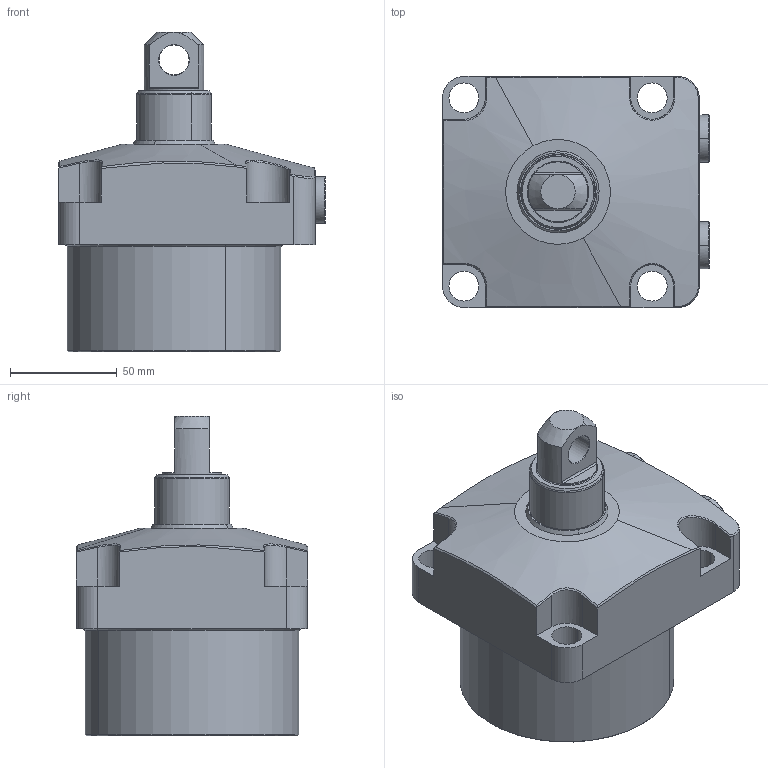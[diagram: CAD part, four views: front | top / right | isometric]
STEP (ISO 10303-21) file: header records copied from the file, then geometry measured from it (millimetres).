
FILE_DESCRIPTION(('CATIA V5 STEP Exchange'),'2;1');
FILE_NAME('C:\Users\kong\Desktop\GCD-25-20X.stp','2014-11-04T06:47:57+00:00',('none'),('none'),'CATIA Version 5 Release 17 (IN-10)','CATIA V5 STEP AP203','none');
FILE_SCHEMA(('CONFIG_CONTROL_DESIGN'));
Length unit declared in the file: millimetre
Products named in the file (1): Product2
Assembly tree (4 placements, depth 2):
  Product2
    #56
    #5374  x2
    #6050
Bounding box: 124.81 x 108 x 149.5 mm (x, y, z)
Volume: 905387.9 mm3; surface area: 76061 mm2
Topology: 4 solids, 4 shells, 169 faces, 416 edges, 270 vertices
Faces by surface type: plane 55, cylinder 52, cone 30, bspline 22, torus 10
Entity records: 6872 total; most frequent: CARTESIAN_POINT 3649, ORIENTED_EDGE 740, DIRECTION 449, EDGE_CURVE 370, VERTEX_POINT 242, AXIS2_PLACEMENT_3D 223, EDGE_LOOP 170, ADVANCED_FACE 147
